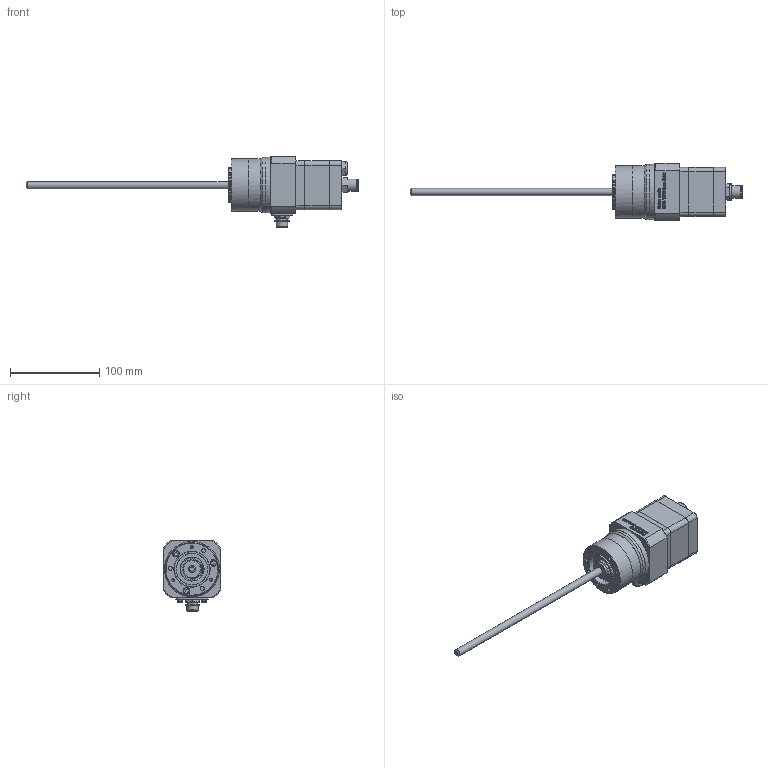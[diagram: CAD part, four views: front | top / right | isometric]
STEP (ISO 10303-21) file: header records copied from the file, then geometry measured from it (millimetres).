
FILE_DESCRIPTION(/* description */ (''),/* implementation_level */ '2;1');
FILE_NAME(/* name */ 'G:\02 CAD Dateien\02 - CAD Schrittmotoren BPS\01 - Standart Produkte\BPS 1620-23\Verkaufsunterlagen\STEP ab JULI 2017\500-16-315f Schrittmotor BPS-1620-S5-MX-SR2.stp',/* time_stamp */ '2017-12-20T10:00:58+01:00',/* author */ ('RSc'),/* organization */ (''),/* preprocessor_version */ 'ST-DEVELOPER v16.1',/* originating_system */ 'Autodesk Inventor 2016',/* authorisation */ '');
FILE_SCHEMA (('AUTOMOTIVE_DESIGN { 1 0 10303 214 3 1 1 }'));
Length unit declared in the file: millimetre
Products named in the file (3): Bauteil30; 500-16-295 Spindel 8x2; Baugruppe1
Assembly tree (2 placements, depth 2):
  Baugruppe1
    Bauteil30
    500-16-295 Spindel 8x2
Bounding box: 372.2 x 64 x 79.5 mm (x, y, z)
Volume: 398126.9 mm3; surface area: 61332.8 mm2
Topology: 13 solids, 36 shells, 869 faces, 2160 edges, 1429 vertices
Faces by surface type: plane 445, bspline 213, cylinder 133, torus 36, cone 31, sphere 11
Full cylindrical faces by diameter (mm): 1 x10, 2 x2, 3 x5, 3.242 x3, 3.3 x6, 4 x3, 4.5 x6, 5.5 x4, 6.65 x1, 7 x3, 7.5 x3, 8 x10, 8.4 x1, 8.566 x4, 9 x1, 9.4 x1, 11 x1, 12 x1, 12.5 x1, 12.6 x1, 13.6 x2, 16 x2, 19 x1, 19.5 x1, 20 x2, 25.325 x1, 26.657 x1, 26.857 x1, 35 x1, 35.343 x1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
Entity records: 27238 total; most frequent: CARTESIAN_POINT 7535, ORIENTED_EDGE 3998, DIRECTION 3185, EDGE_CURVE 1975, VERTEX_POINT 1376, EDGE_LOOP 1127, LINE 1111, VECTOR 1111
